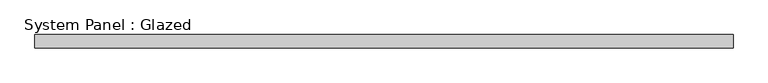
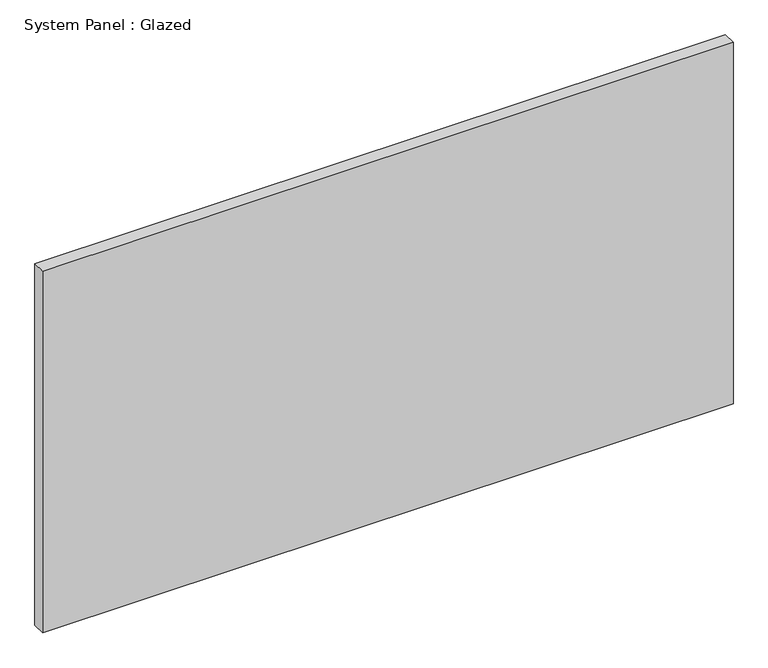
"""IFC4 building model written with IfcOpenShell, lengths in millimetres: plate geometry, System Panel : Glazed."""

from ifc_helpers import new_model, si_unit, origin, origin_with_axes, place, context, project, spatial, polyline, outline, extrude, source, transform, mapped, element, save


def system_panel_glazed_f9297d4f(model_context):
    return source(origin(), model_context, "Body", "SweptSolid", [
        extrude(outline(polyline([(655.0000001, -49.5), (-655.0000001, -49.5), (-655.0000001, -24.5), (655.0000001, -24.5), (655.0000001, -49.5)])), origin_with_axes(), (0.0, 0.0, 1.0), 725.0),
    ])


if __name__ == "__main__":
    model = new_model("IFC4")
    model_context = context("Model", 3, world=origin())
    ifc_project = project(units=[si_unit("LENGTHUNIT", "METRE", prefix="MILLI")], contexts=[model_context])
    site = spatial("IfcSite", under=ifc_project)
    building = spatial("IfcBuilding", under=site)
    placement = place(None, origin())
    system_panel_glazed_shape = system_panel_glazed_f9297d4f(model_context)
    element("IfcPlate", 1, ObjectType="System Panel : Glazed", at=placement, inside=building, context=model_context, shape_type="MappedRepresentation", body=[
        mapped(system_panel_glazed_shape, transform((0.0, 0.0, 0.0), x_axis=(1.0, 0.0, 0.0), y_axis=(0.0, 1.0, 0.0), z_axis=(0.0, 0.0, 1.0))),
    ])
    save(model, "model.ifc")
